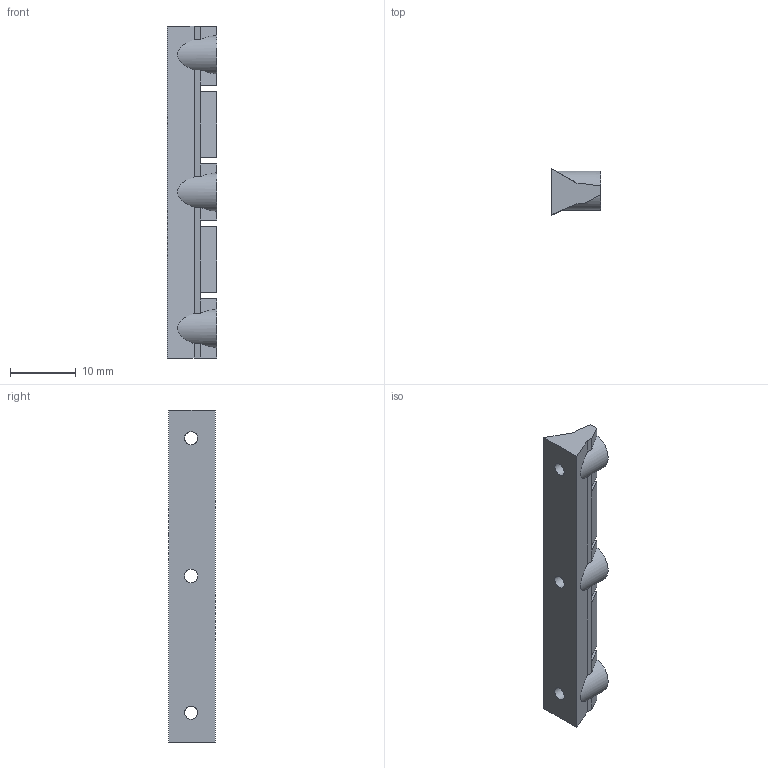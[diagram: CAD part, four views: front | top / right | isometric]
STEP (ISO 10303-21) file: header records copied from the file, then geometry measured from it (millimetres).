
FILE_DESCRIPTION(('STEP AP203'), '1');
FILE_NAME('ïîäñòàâêà 4-6 ìì çàíèæåííûé ñ 3 îòâåðñòèÿìè', '', ('UNSPECIFIED'), ('UNSPECIFIED'), 'ASCON STEP Converter 1.3', 'ASCON Math Kernel', '');
FILE_SCHEMA(('CONFIG_CONTROL_DESIGN'));
Length unit declared in the file: millimetre
Bounding box: 7.5 x 7.02 x 50.6 mm (x, y, z)
Volume: 1494.7 mm3; surface area: 1540.7 mm2
Topology: 1 solids, 1 shells, 58 faces, 149 edges, 93 vertices
Faces by surface type: plane 46, cylinder 9, cone 3
Full cylindrical faces by diameter (mm): 2 x3
Entity records: 2268 total; most frequent: CARTESIAN_POINT 417, ORIENTED_EDGE 286, DIRECTION 254, EDGE_CURVE 143, LINE 110, VECTOR 110, VERTEX_POINT 93, AXIS2_PLACEMENT_3D 72
